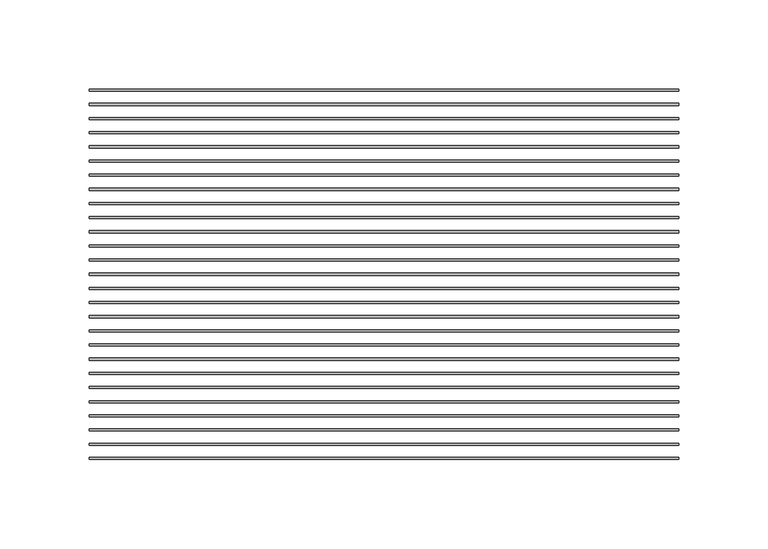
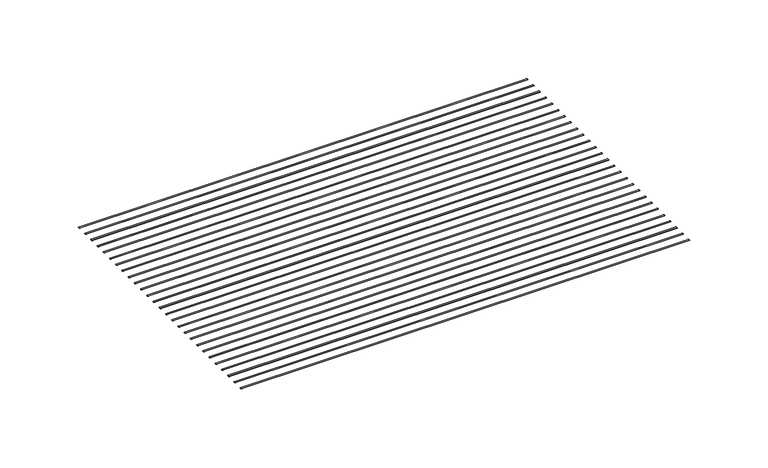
"""IFC4 building model written with IfcOpenShell, lengths in millimetres: proxy geometry, CRAi Generic Model Mesh Piece Face Based : CRAi Generic Model Mesh Piece Face Based."""

from ifc_helpers import new_model, si_unit, point, frame, origin, place, context, project, spatial, ellipse_curve, trimmed, source, transform, mapped, element, save
from ifc_brep_helpers import plane_surface, extruded_surface, advanced_brep


def generic_models_9b5b6e1e(model_context):
    return source(origin(), model_context, "Body", "AdvancedBrep", [
        advanced_brep(
        [(-165.1, 59.3705161, -2.9765625), (-165.1, 58.1798911, -2.9765625), (165.1, 59.3705161, -2.9765625), (165.1, 58.1798911, -2.9765625)],
        [
            (0, 1, ellipse_curve(frame((-165.1, 58.7752036, -2.9765625), z_axis=(-1.0, 0.0, 0.0), x_axis=(0.0, -1.0, 0.0)), 0.5953125, 0.1984375)),
            (1, 0, ellipse_curve(frame((-165.1, 58.7752036, -2.9765625), z_axis=(-1.0, 0.0, 0.0), x_axis=(0.0, -1.0, 0.0)), 0.5953125, 0.1984375)),
            (2, 3, ellipse_curve(frame((165.1, 58.7752036, -2.9765625), z_axis=(1.0, 0.0, 0.0), x_axis=(0.0, -1.0, 0.0)), 0.5953125, 0.1984375)),
            (3, 2, ellipse_curve(frame((165.1, 58.7752036, -2.9765625), z_axis=(1.0, 0.0, 0.0), x_axis=(0.0, -1.0, 0.0)), 0.5953125, 0.1984375)),
            (0, 2),
            (3, 1),
        ],
        [
            plane_surface(frame((-165.1, 58.7752036, -2.9765625), z_axis=(-1.0, 0.0, 0.0), x_axis=(0.0, 0.0, 1.0))),
            plane_surface(frame((165.1, 58.7752036, -2.9765625), z_axis=(1.0, 0.0, 0.0), x_axis=(0.0, 0.0, 1.0))),
            extruded_surface(trimmed(ellipse_curve(frame((165.1, 58.7752036, -2.9765625), z_axis=(-1.0, 0.0, 0.0), x_axis=(0.0, -1.0, 0.0)), 0.5953125, 0.1984375), [point((165.1, 59.3705161, -2.9765625))], [point((165.1, 58.1798911, -2.9765625))], True, "CARTESIAN"), (-330.2, 0.0, 0.0), 330.2),
            extruded_surface(trimmed(ellipse_curve(frame((165.1, 58.7752036, -2.9765625), z_axis=(-1.0, 0.0, 0.0), x_axis=(0.0, -1.0, 0.0)), 0.5953125, 0.1984375), [point((165.1, 58.1798911, -2.9765625))], [point((165.1, 59.3705161, -2.9765625))], True, "CARTESIAN"), (-330.2, 0.0, 0.0), 330.2),
        ],
        [
            (0, [[1, 2]]),
            (1, [[3, 4]]),
            (2, [[-1, 5, -4, 6]]),
            (3, [[-2, -6, -3, -5]]),
        ],
    ),
        advanced_brep(
        [(-165.1, 51.4330161, -2.9765625), (-165.1, 50.2423911, -2.9765625), (165.1, 51.4330161, -2.9765625), (165.1, 50.2423911, -2.9765625)],
        [
            (0, 1, ellipse_curve(frame((-165.1, 50.8377036, -2.9765625), z_axis=(-1.0, 0.0, 0.0), x_axis=(0.0, -1.0, 0.0)), 0.5953125, 0.1984375)),
            (1, 0, ellipse_curve(frame((-165.1, 50.8377036, -2.9765625), z_axis=(-1.0, 0.0, 0.0), x_axis=(0.0, -1.0, 0.0)), 0.5953125, 0.1984375)),
            (2, 3, ellipse_curve(frame((165.1, 50.8377036, -2.9765625), z_axis=(1.0, 0.0, 0.0), x_axis=(0.0, -1.0, 0.0)), 0.5953125, 0.1984375)),
            (3, 2, ellipse_curve(frame((165.1, 50.8377036, -2.9765625), z_axis=(1.0, 0.0, 0.0), x_axis=(0.0, -1.0, 0.0)), 0.5953125, 0.1984375)),
            (0, 2),
            (3, 1),
        ],
        [
            plane_surface(frame((-165.1, 50.8377036, -2.9765625), z_axis=(-1.0, 0.0, 0.0), x_axis=(0.0, 0.0, 1.0))),
            plane_surface(frame((165.1, 50.8377036, -2.9765625), z_axis=(1.0, 0.0, 0.0), x_axis=(0.0, 0.0, 1.0))),
            extruded_surface(trimmed(ellipse_curve(frame((165.1, 50.8377036, -2.9765625), z_axis=(-1.0, 0.0, 0.0), x_axis=(0.0, -1.0, 0.0)), 0.5953125, 0.1984375), [point((165.1, 51.4330161, -2.9765625))], [point((165.1, 50.2423911, -2.9765625))], True, "CARTESIAN"), (-330.2, 0.0, 0.0), 330.2),
            extruded_surface(trimmed(ellipse_curve(frame((165.1, 50.8377036, -2.9765625), z_axis=(-1.0, 0.0, 0.0), x_axis=(0.0, -1.0, 0.0)), 0.5953125, 0.1984375), [point((165.1, 50.2423911, -2.9765625))], [point((165.1, 51.4330161, -2.9765625))], True, "CARTESIAN"), (-330.2, 0.0, 0.0), 330.2),
        ],
        [
            (0, [[1, 2]]),
            (1, [[3, 4]]),
            (2, [[-1, 5, -4, 6]]),
            (3, [[-2, -6, -3, -5]]),
        ],
    ),
        advanced_brep(
        [(-165.1, 43.4955161, -2.9765625), (-165.1, 42.3048911, -2.9765625), (165.1, 43.4955161, -2.9765625), (165.1, 42.3048911, -2.9765625)],
        [
            (0, 1, ellipse_curve(frame((-165.1, 42.9002036, -2.9765625), z_axis=(-1.0, 0.0, 0.0), x_axis=(0.0, -1.0, 0.0)), 0.5953125, 0.1984375)),
            (1, 0, ellipse_curve(frame((-165.1, 42.9002036, -2.9765625), z_axis=(-1.0, 0.0, 0.0), x_axis=(0.0, -1.0, 0.0)), 0.5953125, 0.1984375)),
            (2, 3, ellipse_curve(frame((165.1, 42.9002036, -2.9765625), z_axis=(1.0, 0.0, 0.0), x_axis=(0.0, -1.0, 0.0)), 0.5953125, 0.1984375)),
            (3, 2, ellipse_curve(frame((165.1, 42.9002036, -2.9765625), z_axis=(1.0, 0.0, 0.0), x_axis=(0.0, -1.0, 0.0)), 0.5953125, 0.1984375)),
            (0, 2),
            (3, 1),
        ],
        [
            plane_surface(frame((-165.1, 42.9002036, -2.9765625), z_axis=(-1.0, 0.0, 0.0), x_axis=(0.0, 0.0, 1.0))),
            plane_surface(frame((165.1, 42.9002036, -2.9765625), z_axis=(1.0, 0.0, 0.0), x_axis=(0.0, 0.0, 1.0))),
            extruded_surface(trimmed(ellipse_curve(frame((165.1, 42.9002036, -2.9765625), z_axis=(-1.0, 0.0, 0.0), x_axis=(0.0, -1.0, 0.0)), 0.5953125, 0.1984375), [point((165.1, 43.4955161, -2.9765625))], [point((165.1, 42.3048911, -2.9765625))], True, "CARTESIAN"), (-330.2, 0.0, 0.0), 330.2),
            extruded_surface(trimmed(ellipse_curve(frame((165.1, 42.9002036, -2.9765625), z_axis=(-1.0, 0.0, 0.0), x_axis=(0.0, -1.0, 0.0)), 0.5953125, 0.1984375), [point((165.1, 42.3048911, -2.9765625))], [point((165.1, 43.4955161, -2.9765625))], True, "CARTESIAN"), (-330.2, 0.0, 0.0), 330.2),
        ],
        [
            (0, [[1, 2]]),
            (1, [[3, 4]]),
            (2, [[-1, 5, -4, 6]]),
            (3, [[-2, -6, -3, -5]]),
        ],
    ),
        advanced_brep(
        [(-165.1, 35.5580161, -2.9765625), (-165.1, 34.3673911, -2.9765625), (165.1, 35.5580161, -2.9765625), (165.1, 34.3673911, -2.9765625)],
        [
            (0, 1, ellipse_curve(frame((-165.1, 34.9627036, -2.9765625), z_axis=(-1.0, 0.0, 0.0), x_axis=(0.0, -1.0, 0.0)), 0.5953125, 0.1984375)),
            (1, 0, ellipse_curve(frame((-165.1, 34.9627036, -2.9765625), z_axis=(-1.0, 0.0, 0.0), x_axis=(0.0, -1.0, 0.0)), 0.5953125, 0.1984375)),
            (2, 3, ellipse_curve(frame((165.1, 34.9627036, -2.9765625), z_axis=(1.0, 0.0, 0.0), x_axis=(0.0, -1.0, 0.0)), 0.5953125, 0.1984375)),
            (3, 2, ellipse_curve(frame((165.1, 34.9627036, -2.9765625), z_axis=(1.0, 0.0, 0.0), x_axis=(0.0, -1.0, 0.0)), 0.5953125, 0.1984375)),
            (0, 2),
            (3, 1),
        ],
        [
            plane_surface(frame((-165.1, 34.9627036, -2.9765625), z_axis=(-1.0, 0.0, 0.0), x_axis=(0.0, 0.0, 1.0))),
            plane_surface(frame((165.1, 34.9627036, -2.9765625), z_axis=(1.0, 0.0, 0.0), x_axis=(0.0, 0.0, 1.0))),
            extruded_surface(trimmed(ellipse_curve(frame((165.1, 34.9627036, -2.9765625), z_axis=(-1.0, 0.0, 0.0), x_axis=(0.0, -1.0, 0.0)), 0.5953125, 0.1984375), [point((165.1, 35.5580161, -2.9765625))], [point((165.1, 34.3673911, -2.9765625))], True, "CARTESIAN"), (-330.2, 0.0, 0.0), 330.2),
            extruded_surface(trimmed(ellipse_curve(frame((165.1, 34.9627036, -2.9765625), z_axis=(-1.0, 0.0, 0.0), x_axis=(0.0, -1.0, 0.0)), 0.5953125, 0.1984375), [point((165.1, 34.3673911, -2.9765625))], [point((165.1, 35.5580161, -2.9765625))], True, "CARTESIAN"), (-330.2, 0.0, 0.0), 330.2),
        ],
        [
            (0, [[1, 2]]),
            (1, [[3, 4]]),
            (2, [[-1, 5, -4, 6]]),
            (3, [[-2, -6, -3, -5]]),
        ],
    ),
        advanced_brep(
        [(-165.1, 27.6205161, -2.9765625), (-165.1, 26.4298911, -2.9765625), (165.1, 27.6205161, -2.9765625), (165.1, 26.4298911, -2.9765625)],
        [
            (0, 1, ellipse_curve(frame((-165.1, 27.0252036, -2.9765625), z_axis=(-1.0, 0.0, 0.0), x_axis=(0.0, -1.0, 0.0)), 0.5953125, 0.1984375)),
            (1, 0, ellipse_curve(frame((-165.1, 27.0252036, -2.9765625), z_axis=(-1.0, 0.0, 0.0), x_axis=(0.0, -1.0, 0.0)), 0.5953125, 0.1984375)),
            (2, 3, ellipse_curve(frame((165.1, 27.0252036, -2.9765625), z_axis=(1.0, 0.0, 0.0), x_axis=(0.0, -1.0, 0.0)), 0.5953125, 0.1984375)),
            (3, 2, ellipse_curve(frame((165.1, 27.0252036, -2.9765625), z_axis=(1.0, 0.0, 0.0), x_axis=(0.0, -1.0, 0.0)), 0.5953125, 0.1984375)),
            (0, 2),
            (3, 1),
        ],
        [
            plane_surface(frame((-165.1, 27.0252036, -2.9765625), z_axis=(-1.0, 0.0, 0.0), x_axis=(0.0, 0.0, 1.0))),
            plane_surface(frame((165.1, 27.0252036, -2.9765625), z_axis=(1.0, 0.0, 0.0), x_axis=(0.0, 0.0, 1.0))),
            extruded_surface(trimmed(ellipse_curve(frame((165.1, 27.0252036, -2.9765625), z_axis=(-1.0, 0.0, 0.0), x_axis=(0.0, -1.0, 0.0)), 0.5953125, 0.1984375), [point((165.1, 27.6205161, -2.9765625))], [point((165.1, 26.4298911, -2.9765625))], True, "CARTESIAN"), (-330.2, 0.0, 0.0), 330.2),
            extruded_surface(trimmed(ellipse_curve(frame((165.1, 27.0252036, -2.9765625), z_axis=(-1.0, 0.0, 0.0), x_axis=(0.0, -1.0, 0.0)), 0.5953125, 0.1984375), [point((165.1, 26.4298911, -2.9765625))], [point((165.1, 27.6205161, -2.9765625))], True, "CARTESIAN"), (-330.2, 0.0, 0.0), 330.2),
        ],
        [
            (0, [[1, 2]]),
            (1, [[3, 4]]),
            (2, [[-1, 5, -4, 6]]),
            (3, [[-2, -6, -3, -5]]),
        ],
    ),
        advanced_brep(
        [(-165.1, 19.6830161, -2.9765625), (-165.1, 18.4923911, -2.9765625), (165.1, 19.6830161, -2.9765625), (165.1, 18.4923911, -2.9765625)],
        [
            (0, 1, ellipse_curve(frame((-165.1, 19.0877036, -2.9765625), z_axis=(-1.0, 0.0, 0.0), x_axis=(0.0, -1.0, 0.0)), 0.5953125, 0.1984375)),
            (1, 0, ellipse_curve(frame((-165.1, 19.0877036, -2.9765625), z_axis=(-1.0, 0.0, 0.0), x_axis=(0.0, -1.0, 0.0)), 0.5953125, 0.1984375)),
            (2, 3, ellipse_curve(frame((165.1, 19.0877036, -2.9765625), z_axis=(1.0, 0.0, 0.0), x_axis=(0.0, -1.0, 0.0)), 0.5953125, 0.1984375)),
            (3, 2, ellipse_curve(frame((165.1, 19.0877036, -2.9765625), z_axis=(1.0, 0.0, 0.0), x_axis=(0.0, -1.0, 0.0)), 0.5953125, 0.1984375)),
            (0, 2),
            (3, 1),
        ],
        [
            plane_surface(frame((-165.1, 19.0877036, -2.9765625), z_axis=(-1.0, 0.0, 0.0), x_axis=(0.0, 0.0, 1.0))),
            plane_surface(frame((165.1, 19.0877036, -2.9765625), z_axis=(1.0, 0.0, 0.0), x_axis=(0.0, 0.0, 1.0))),
            extruded_surface(trimmed(ellipse_curve(frame((165.1, 19.0877036, -2.9765625), z_axis=(-1.0, 0.0, 0.0), x_axis=(0.0, -1.0, 0.0)), 0.5953125, 0.1984375), [point((165.1, 19.6830161, -2.9765625))], [point((165.1, 18.4923911, -2.9765625))], True, "CARTESIAN"), (-330.2, 0.0, 0.0), 330.2),
            extruded_surface(trimmed(ellipse_curve(frame((165.1, 19.0877036, -2.9765625), z_axis=(-1.0, 0.0, 0.0), x_axis=(0.0, -1.0, 0.0)), 0.5953125, 0.1984375), [point((165.1, 18.4923911, -2.9765625))], [point((165.1, 19.6830161, -2.9765625))], True, "CARTESIAN"), (-330.2, 0.0, 0.0), 330.2),
        ],
        [
            (0, [[1, 2]]),
            (1, [[3, 4]]),
            (2, [[-1, 5, -4, 6]]),
            (3, [[-2, -6, -3, -5]]),
        ],
    ),
        advanced_brep(
        [(-165.1, 11.7455161, -2.9765625), (-165.1, 10.5548911, -2.9765625), (165.1, 11.7455161, -2.9765625), (165.1, 10.5548911, -2.9765625)],
        [
            (0, 1, ellipse_curve(frame((-165.1, 11.1502036, -2.9765625), z_axis=(-1.0, 0.0, 0.0), x_axis=(0.0, -1.0, 0.0)), 0.5953125, 0.1984375)),
            (1, 0, ellipse_curve(frame((-165.1, 11.1502036, -2.9765625), z_axis=(-1.0, 0.0, 0.0), x_axis=(0.0, -1.0, 0.0)), 0.5953125, 0.1984375)),
            (2, 3, ellipse_curve(frame((165.1, 11.1502036, -2.9765625), z_axis=(1.0, 0.0, 0.0), x_axis=(0.0, -1.0, 0.0)), 0.5953125, 0.1984375)),
            (3, 2, ellipse_curve(frame((165.1, 11.1502036, -2.9765625), z_axis=(1.0, 0.0, 0.0), x_axis=(0.0, -1.0, 0.0)), 0.5953125, 0.1984375)),
            (0, 2),
            (3, 1),
        ],
        [
            plane_surface(frame((-165.1, 11.1502036, -2.9765625), z_axis=(-1.0, 0.0, 0.0), x_axis=(0.0, 0.0, 1.0))),
            plane_surface(frame((165.1, 11.1502036, -2.9765625), z_axis=(1.0, 0.0, 0.0), x_axis=(0.0, 0.0, 1.0))),
            extruded_surface(trimmed(ellipse_curve(frame((165.1, 11.1502036, -2.9765625), z_axis=(-1.0, 0.0, 0.0), x_axis=(0.0, -1.0, 0.0)), 0.5953125, 0.1984375), [point((165.1, 11.7455161, -2.9765625))], [point((165.1, 10.5548911, -2.9765625))], True, "CARTESIAN"), (-330.2, 0.0, 0.0), 330.2),
            extruded_surface(trimmed(ellipse_curve(frame((165.1, 11.1502036, -2.9765625), z_axis=(-1.0, 0.0, 0.0), x_axis=(0.0, -1.0, 0.0)), 0.5953125, 0.1984375), [point((165.1, 10.5548911, -2.9765625))], [point((165.1, 11.7455161, -2.9765625))], True, "CARTESIAN"), (-330.2, 0.0, 0.0), 330.2),
        ],
        [
            (0, [[1, 2]]),
            (1, [[3, 4]]),
            (2, [[-1, 5, -4, 6]]),
            (3, [[-2, -6, -3, -5]]),
        ],
    ),
        advanced_brep(
        [(-165.1, 3.8080161, -2.9765625), (-165.1, 2.6173911, -2.9765625), (165.1, 3.8080161, -2.9765625), (165.1, 2.6173911, -2.9765625)],
        [
            (0, 1, ellipse_curve(frame((-165.1, 3.2127036, -2.9765625), z_axis=(-1.0, 0.0, 0.0), x_axis=(0.0, -1.0, 0.0)), 0.5953125, 0.1984375)),
            (1, 0, ellipse_curve(frame((-165.1, 3.2127036, -2.9765625), z_axis=(-1.0, 0.0, 0.0), x_axis=(0.0, -1.0, 0.0)), 0.5953125, 0.1984375)),
            (2, 3, ellipse_curve(frame((165.1, 3.2127036, -2.9765625), z_axis=(1.0, 0.0, 0.0), x_axis=(0.0, -1.0, 0.0)), 0.5953125, 0.1984375)),
            (3, 2, ellipse_curve(frame((165.1, 3.2127036, -2.9765625), z_axis=(1.0, 0.0, 0.0), x_axis=(0.0, -1.0, 0.0)), 0.5953125, 0.1984375)),
            (0, 2),
            (3, 1),
        ],
        [
            plane_surface(frame((-165.1, 3.2127036, -2.9765625), z_axis=(-1.0, 0.0, 0.0), x_axis=(0.0, 0.0, 1.0))),
            plane_surface(frame((165.1, 3.2127036, -2.9765625), z_axis=(1.0, 0.0, 0.0), x_axis=(0.0, 0.0, 1.0))),
            extruded_surface(trimmed(ellipse_curve(frame((165.1, 3.2127036, -2.9765625), z_axis=(-1.0, 0.0, 0.0), x_axis=(0.0, -1.0, 0.0)), 0.5953125, 0.1984375), [point((165.1, 3.8080161, -2.9765625))], [point((165.1, 2.6173911, -2.9765625))], True, "CARTESIAN"), (-330.2, 0.0, 0.0), 330.2),
            extruded_surface(trimmed(ellipse_curve(frame((165.1, 3.2127036, -2.9765625), z_axis=(-1.0, 0.0, 0.0), x_axis=(0.0, -1.0, 0.0)), 0.5953125, 0.1984375), [point((165.1, 2.6173911, -2.9765625))], [point((165.1, 3.8080161, -2.9765625))], True, "CARTESIAN"), (-330.2, 0.0, 0.0), 330.2),
        ],
        [
            (0, [[1, 2]]),
            (1, [[3, 4]]),
            (2, [[-1, 5, -4, 6]]),
            (3, [[-2, -6, -3, -5]]),
        ],
    ),
        advanced_brep(
        [(-165.1, -4.1294839, -2.9765625), (-165.1, -5.3201089, -2.9765625), (165.1, -4.1294839, -2.9765625), (165.1, -5.3201089, -2.9765625)],
        [
            (0, 1, ellipse_curve(frame((-165.1, -4.7247964, -2.9765625), z_axis=(-1.0, 0.0, 0.0), x_axis=(0.0, -1.0, 0.0)), 0.5953125, 0.1984375)),
            (1, 0, ellipse_curve(frame((-165.1, -4.7247964, -2.9765625), z_axis=(-1.0, 0.0, 0.0), x_axis=(0.0, -1.0, 0.0)), 0.5953125, 0.1984375)),
            (2, 3, ellipse_curve(frame((165.1, -4.7247964, -2.9765625), z_axis=(1.0, 0.0, 0.0), x_axis=(0.0, -1.0, 0.0)), 0.5953125, 0.1984375)),
            (3, 2, ellipse_curve(frame((165.1, -4.7247964, -2.9765625), z_axis=(1.0, 0.0, 0.0), x_axis=(0.0, -1.0, 0.0)), 0.5953125, 0.1984375)),
            (0, 2),
            (3, 1),
        ],
        [
            plane_surface(frame((-165.1, -4.7247964, -2.9765625), z_axis=(-1.0, 0.0, 0.0), x_axis=(0.0, 0.0, 1.0))),
            plane_surface(frame((165.1, -4.7247964, -2.9765625), z_axis=(1.0, 0.0, 0.0), x_axis=(0.0, 0.0, 1.0))),
            extruded_surface(trimmed(ellipse_curve(frame((165.1, -4.7247964, -2.9765625), z_axis=(-1.0, 0.0, 0.0), x_axis=(0.0, -1.0, 0.0)), 0.5953125, 0.1984375), [point((165.1, -4.1294839, -2.9765625))], [point((165.1, -5.3201089, -2.9765625))], True, "CARTESIAN"), (-330.2, 0.0, 0.0), 330.2),
            extruded_surface(trimmed(ellipse_curve(frame((165.1, -4.7247964, -2.9765625), z_axis=(-1.0, 0.0, 0.0), x_axis=(0.0, -1.0, 0.0)), 0.5953125, 0.1984375), [point((165.1, -5.3201089, -2.9765625))], [point((165.1, -4.1294839, -2.9765625))], True, "CARTESIAN"), (-330.2, 0.0, 0.0), 330.2),
        ],
        [
            (0, [[1, 2]]),
            (1, [[3, 4]]),
            (2, [[-1, 5, -4, 6]]),
            (3, [[-2, -6, -3, -5]]),
        ],
    ),
        advanced_brep(
        [(-165.1, -12.0669839, -2.9765625), (-165.1, -13.2576089, -2.9765625), (165.1, -12.0669839, -2.9765625), (165.1, -13.2576089, -2.9765625)],
        [
            (0, 1, ellipse_curve(frame((-165.1, -12.6622964, -2.9765625), z_axis=(-1.0, 0.0, 0.0), x_axis=(0.0, -1.0, 0.0)), 0.5953125, 0.1984375)),
            (1, 0, ellipse_curve(frame((-165.1, -12.6622964, -2.9765625), z_axis=(-1.0, 0.0, 0.0), x_axis=(0.0, -1.0, 0.0)), 0.5953125, 0.1984375)),
            (2, 3, ellipse_curve(frame((165.1, -12.6622964, -2.9765625), z_axis=(1.0, 0.0, 0.0), x_axis=(0.0, -1.0, 0.0)), 0.5953125, 0.1984375)),
            (3, 2, ellipse_curve(frame((165.1, -12.6622964, -2.9765625), z_axis=(1.0, 0.0, 0.0), x_axis=(0.0, -1.0, 0.0)), 0.5953125, 0.1984375)),
            (0, 2),
            (3, 1),
        ],
        [
            plane_surface(frame((-165.1, -12.6622964, -2.9765625), z_axis=(-1.0, 0.0, 0.0), x_axis=(0.0, 0.0, 1.0))),
            plane_surface(frame((165.1, -12.6622964, -2.9765625), z_axis=(1.0, 0.0, 0.0), x_axis=(0.0, 0.0, 1.0))),
            extruded_surface(trimmed(ellipse_curve(frame((165.1, -12.6622964, -2.9765625), z_axis=(-1.0, 0.0, 0.0), x_axis=(0.0, -1.0, 0.0)), 0.5953125, 0.1984375), [point((165.1, -12.0669839, -2.9765625))], [point((165.1, -13.2576089, -2.9765625))], True, "CARTESIAN"), (-330.2, 0.0, 0.0), 330.2),
            extruded_surface(trimmed(ellipse_curve(frame((165.1, -12.6622964, -2.9765625), z_axis=(-1.0, 0.0, 0.0), x_axis=(0.0, -1.0, 0.0)), 0.5953125, 0.1984375), [point((165.1, -13.2576089, -2.9765625))], [point((165.1, -12.0669839, -2.9765625))], True, "CARTESIAN"), (-330.2, 0.0, 0.0), 330.2),
        ],
        [
            (0, [[1, 2]]),
            (1, [[3, 4]]),
            (2, [[-1, 5, -4, 6]]),
            (3, [[-2, -6, -3, -5]]),
        ],
    ),
        advanced_brep(
        [(-165.1, -20.0044839, -2.9765625), (-165.1, -21.1951089, -2.9765625), (165.1, -20.0044839, -2.9765625), (165.1, -21.1951089, -2.9765625)],
        [
            (0, 1, ellipse_curve(frame((-165.1, -20.5997964, -2.9765625), z_axis=(-1.0, 0.0, 0.0), x_axis=(0.0, -1.0, 0.0)), 0.5953125, 0.1984375)),
            (1, 0, ellipse_curve(frame((-165.1, -20.5997964, -2.9765625), z_axis=(-1.0, 0.0, 0.0), x_axis=(0.0, -1.0, 0.0)), 0.5953125, 0.1984375)),
            (2, 3, ellipse_curve(frame((165.1, -20.5997964, -2.9765625), z_axis=(1.0, 0.0, 0.0), x_axis=(0.0, -1.0, 0.0)), 0.5953125, 0.1984375)),
            (3, 2, ellipse_curve(frame((165.1, -20.5997964, -2.9765625), z_axis=(1.0, 0.0, 0.0), x_axis=(0.0, -1.0, 0.0)), 0.5953125, 0.1984375)),
            (0, 2),
            (3, 1),
        ],
        [
            plane_surface(frame((-165.1, -20.5997964, -2.9765625), z_axis=(-1.0, 0.0, 0.0), x_axis=(0.0, 0.0, 1.0))),
            plane_surface(frame((165.1, -20.5997964, -2.9765625), z_axis=(1.0, 0.0, 0.0), x_axis=(0.0, 0.0, 1.0))),
            extruded_surface(trimmed(ellipse_curve(frame((165.1, -20.5997964, -2.9765625), z_axis=(-1.0, 0.0, 0.0), x_axis=(0.0, -1.0, 0.0)), 0.5953125, 0.1984375), [point((165.1, -20.0044839, -2.9765625))], [point((165.1, -21.1951089, -2.9765625))], True, "CARTESIAN"), (-330.2, 0.0, 0.0), 330.2),
            extruded_surface(trimmed(ellipse_curve(frame((165.1, -20.5997964, -2.9765625), z_axis=(-1.0, 0.0, 0.0), x_axis=(0.0, -1.0, 0.0)), 0.5953125, 0.1984375), [point((165.1, -21.1951089, -2.9765625))], [point((165.1, -20.0044839, -2.9765625))], True, "CARTESIAN"), (-330.2, 0.0, 0.0), 330.2),
        ],
        [
            (0, [[1, 2]]),
            (1, [[3, 4]]),
            (2, [[-1, 5, -4, 6]]),
            (3, [[-2, -6, -3, -5]]),
        ],
    ),
        advanced_brep(
        [(-165.1, -27.9419839, -2.9765625), (-165.1, -29.1326089, -2.9765625), (165.1, -27.9419839, -2.9765625), (165.1, -29.1326089, -2.9765625)],
        [
            (0, 1, ellipse_curve(frame((-165.1, -28.5372964, -2.9765625), z_axis=(-1.0, 0.0, 0.0), x_axis=(0.0, -1.0, 0.0)), 0.5953125, 0.1984375)),
            (1, 0, ellipse_curve(frame((-165.1, -28.5372964, -2.9765625), z_axis=(-1.0, 0.0, 0.0), x_axis=(0.0, -1.0, 0.0)), 0.5953125, 0.1984375)),
            (2, 3, ellipse_curve(frame((165.1, -28.5372964, -2.9765625), z_axis=(1.0, 0.0, 0.0), x_axis=(0.0, -1.0, 0.0)), 0.5953125, 0.1984375)),
            (3, 2, ellipse_curve(frame((165.1, -28.5372964, -2.9765625), z_axis=(1.0, 0.0, 0.0), x_axis=(0.0, -1.0, 0.0)), 0.5953125, 0.1984375)),
            (0, 2),
            (3, 1),
        ],
        [
            plane_surface(frame((-165.1, -28.5372964, -2.9765625), z_axis=(-1.0, 0.0, 0.0), x_axis=(0.0, 0.0, 1.0))),
            plane_surface(frame((165.1, -28.5372964, -2.9765625), z_axis=(1.0, 0.0, 0.0), x_axis=(0.0, 0.0, 1.0))),
            extruded_surface(trimmed(ellipse_curve(frame((165.1, -28.5372964, -2.9765625), z_axis=(-1.0, 0.0, 0.0), x_axis=(0.0, -1.0, 0.0)), 0.5953125, 0.1984375), [point((165.1, -27.9419839, -2.9765625))], [point((165.1, -29.1326089, -2.9765625))], True, "CARTESIAN"), (-330.2, 0.0, 0.0), 330.2),
            extruded_surface(trimmed(ellipse_curve(frame((165.1, -28.5372964, -2.9765625), z_axis=(-1.0, 0.0, 0.0), x_axis=(0.0, -1.0, 0.0)), 0.5953125, 0.1984375), [point((165.1, -29.1326089, -2.9765625))], [point((165.1, -27.9419839, -2.9765625))], True, "CARTESIAN"), (-330.2, 0.0, 0.0), 330.2),
        ],
        [
            (0, [[1, 2]]),
            (1, [[3, 4]]),
            (2, [[-1, 5, -4, 6]]),
            (3, [[-2, -6, -3, -5]]),
        ],
    ),
        advanced_brep(
        [(-165.1, -35.8794839, -2.9765625), (-165.1, -37.0701089, -2.9765625), (165.1, -35.8794839, -2.9765625), (165.1, -37.0701089, -2.9765625)],
        [
            (0, 1, ellipse_curve(frame((-165.1, -36.4747964, -2.9765625), z_axis=(-1.0, 0.0, 0.0), x_axis=(0.0, -1.0, 0.0)), 0.5953125, 0.1984375)),
            (1, 0, ellipse_curve(frame((-165.1, -36.4747964, -2.9765625), z_axis=(-1.0, 0.0, 0.0), x_axis=(0.0, -1.0, 0.0)), 0.5953125, 0.1984375)),
            (2, 3, ellipse_curve(frame((165.1, -36.4747964, -2.9765625), z_axis=(1.0, 0.0, 0.0), x_axis=(0.0, -1.0, 0.0)), 0.5953125, 0.1984375)),
            (3, 2, ellipse_curve(frame((165.1, -36.4747964, -2.9765625), z_axis=(1.0, 0.0, 0.0), x_axis=(0.0, -1.0, 0.0)), 0.5953125, 0.1984375)),
            (0, 2),
            (3, 1),
        ],
        [
            plane_surface(frame((-165.1, -36.4747964, -2.9765625), z_axis=(-1.0, 0.0, 0.0), x_axis=(0.0, 0.0, 1.0))),
            plane_surface(frame((165.1, -36.4747964, -2.9765625), z_axis=(1.0, 0.0, 0.0), x_axis=(0.0, 0.0, 1.0))),
            extruded_surface(trimmed(ellipse_curve(frame((165.1, -36.4747964, -2.9765625), z_axis=(-1.0, 0.0, 0.0), x_axis=(0.0, -1.0, 0.0)), 0.5953125, 0.1984375), [point((165.1, -35.8794839, -2.9765625))], [point((165.1, -37.0701089, -2.9765625))], True, "CARTESIAN"), (-330.2, 0.0, 0.0), 330.2),
            extruded_surface(trimmed(ellipse_curve(frame((165.1, -36.4747964, -2.9765625), z_axis=(-1.0, 0.0, 0.0), x_axis=(0.0, -1.0, 0.0)), 0.5953125, 0.1984375), [point((165.1, -37.0701089, -2.9765625))], [point((165.1, -35.8794839, -2.9765625))], True, "CARTESIAN"), (-330.2, 0.0, 0.0), 330.2),
        ],
        [
            (0, [[1, 2]]),
            (1, [[3, 4]]),
            (2, [[-1, 5, -4, 6]]),
            (3, [[-2, -6, -3, -5]]),
        ],
    ),
        advanced_brep(
        [(-165.1, -43.8169839, -2.9765625), (-165.1, -45.0076089, -2.9765625), (165.1, -43.8169839, -2.9765625), (165.1, -45.0076089, -2.9765625)],
        [
            (0, 1, ellipse_curve(frame((-165.1, -44.4122964, -2.9765625), z_axis=(-1.0, 0.0, 0.0), x_axis=(0.0, -1.0, 0.0)), 0.5953125, 0.1984375)),
            (1, 0, ellipse_curve(frame((-165.1, -44.4122964, -2.9765625), z_axis=(-1.0, 0.0, 0.0), x_axis=(0.0, -1.0, 0.0)), 0.5953125, 0.1984375)),
            (2, 3, ellipse_curve(frame((165.1, -44.4122964, -2.9765625), z_axis=(1.0, 0.0, 0.0), x_axis=(0.0, -1.0, 0.0)), 0.5953125, 0.1984375)),
            (3, 2, ellipse_curve(frame((165.1, -44.4122964, -2.9765625), z_axis=(1.0, 0.0, 0.0), x_axis=(0.0, -1.0, 0.0)), 0.5953125, 0.1984375)),
            (0, 2),
            (3, 1),
        ],
        [
            plane_surface(frame((-165.1, -44.4122964, -2.9765625), z_axis=(-1.0, 0.0, 0.0), x_axis=(0.0, 0.0, 1.0))),
            plane_surface(frame((165.1, -44.4122964, -2.9765625), z_axis=(1.0, 0.0, 0.0), x_axis=(0.0, 0.0, 1.0))),
            extruded_surface(trimmed(ellipse_curve(frame((165.1, -44.4122964, -2.9765625), z_axis=(-1.0, 0.0, 0.0), x_axis=(0.0, -1.0, 0.0)), 0.5953125, 0.1984375), [point((165.1, -43.8169839, -2.9765625))], [point((165.1, -45.0076089, -2.9765625))], True, "CARTESIAN"), (-330.2, 0.0, 0.0), 330.2),
            extruded_surface(trimmed(ellipse_curve(frame((165.1, -44.4122964, -2.9765625), z_axis=(-1.0, 0.0, 0.0), x_axis=(0.0, -1.0, 0.0)), 0.5953125, 0.1984375), [point((165.1, -45.0076089, -2.9765625))], [point((165.1, -43.8169839, -2.9765625))], True, "CARTESIAN"), (-330.2, 0.0, 0.0), 330.2),
        ],
        [
            (0, [[1, 2]]),
            (1, [[3, 4]]),
            (2, [[-1, 5, -4, 6]]),
            (3, [[-2, -6, -3, -5]]),
        ],
    ),
        advanced_brep(
        [(-165.1, -51.7544839, -2.9765625), (-165.1, -52.9451089, -2.9765625), (165.1, -51.7544839, -2.9765625), (165.1, -52.9451089, -2.9765625)],
        [
            (0, 1, ellipse_curve(frame((-165.1, -52.3497964, -2.9765625), z_axis=(-1.0, 0.0, 0.0), x_axis=(0.0, -1.0, 0.0)), 0.5953125, 0.1984375)),
            (1, 0, ellipse_curve(frame((-165.1, -52.3497964, -2.9765625), z_axis=(-1.0, 0.0, 0.0), x_axis=(0.0, -1.0, 0.0)), 0.5953125, 0.1984375)),
            (2, 3, ellipse_curve(frame((165.1, -52.3497964, -2.9765625), z_axis=(1.0, 0.0, 0.0), x_axis=(0.0, -1.0, 0.0)), 0.5953125, 0.1984375)),
            (3, 2, ellipse_curve(frame((165.1, -52.3497964, -2.9765625), z_axis=(1.0, 0.0, 0.0), x_axis=(0.0, -1.0, 0.0)), 0.5953125, 0.1984375)),
            (0, 2),
            (3, 1),
        ],
        [
            plane_surface(frame((-165.1, -52.3497964, -2.9765625), z_axis=(-1.0, 0.0, 0.0), x_axis=(0.0, 0.0, 1.0))),
            plane_surface(frame((165.1, -52.3497964, -2.9765625), z_axis=(1.0, 0.0, 0.0), x_axis=(0.0, 0.0, 1.0))),
            extruded_surface(trimmed(ellipse_curve(frame((165.1, -52.3497964, -2.9765625), z_axis=(-1.0, 0.0, 0.0), x_axis=(0.0, -1.0, 0.0)), 0.5953125, 0.1984375), [point((165.1, -51.7544839, -2.9765625))], [point((165.1, -52.9451089, -2.9765625))], True, "CARTESIAN"), (-330.2, 0.0, 0.0), 330.2),
            extruded_surface(trimmed(ellipse_curve(frame((165.1, -52.3497964, -2.9765625), z_axis=(-1.0, 0.0, 0.0), x_axis=(0.0, -1.0, 0.0)), 0.5953125, 0.1984375), [point((165.1, -52.9451089, -2.9765625))], [point((165.1, -51.7544839, -2.9765625))], True, "CARTESIAN"), (-330.2, 0.0, 0.0), 330.2),
        ],
        [
            (0, [[1, 2]]),
            (1, [[3, 4]]),
            (2, [[-1, 5, -4, 6]]),
            (3, [[-2, -6, -3, -5]]),
        ],
    ),
        advanced_brep(
        [(-165.1, -59.6919839, -2.9765625), (-165.1, -60.8826089, -2.9765625), (165.1, -59.6919839, -2.9765625), (165.1, -60.8826089, -2.9765625)],
        [
            (0, 1, ellipse_curve(frame((-165.1, -60.2872964, -2.9765625), z_axis=(-1.0, 0.0, 0.0), x_axis=(0.0, -1.0, 0.0)), 0.5953125, 0.1984375)),
            (1, 0, ellipse_curve(frame((-165.1, -60.2872964, -2.9765625), z_axis=(-1.0, 0.0, 0.0), x_axis=(0.0, -1.0, 0.0)), 0.5953125, 0.1984375)),
            (2, 3, ellipse_curve(frame((165.1, -60.2872964, -2.9765625), z_axis=(1.0, 0.0, 0.0), x_axis=(0.0, -1.0, 0.0)), 0.5953125, 0.1984375)),
            (3, 2, ellipse_curve(frame((165.1, -60.2872964, -2.9765625), z_axis=(1.0, 0.0, 0.0), x_axis=(0.0, -1.0, 0.0)), 0.5953125, 0.1984375)),
            (0, 2),
            (3, 1),
        ],
        [
            plane_surface(frame((-165.1, -60.2872964, -2.9765625), z_axis=(-1.0, 0.0, 0.0), x_axis=(0.0, 0.0, 1.0))),
            plane_surface(frame((165.1, -60.2872964, -2.9765625), z_axis=(1.0, 0.0, 0.0), x_axis=(0.0, 0.0, 1.0))),
            extruded_surface(trimmed(ellipse_curve(frame((165.1, -60.2872964, -2.9765625), z_axis=(-1.0, 0.0, 0.0), x_axis=(0.0, -1.0, 0.0)), 0.5953125, 0.1984375), [point((165.1, -59.6919839, -2.9765625))], [point((165.1, -60.8826089, -2.9765625))], True, "CARTESIAN"), (-330.2, 0.0, 0.0), 330.2),
            extruded_surface(trimmed(ellipse_curve(frame((165.1, -60.2872964, -2.9765625), z_axis=(-1.0, 0.0, 0.0), x_axis=(0.0, -1.0, 0.0)), 0.5953125, 0.1984375), [point((165.1, -60.8826089, -2.9765625))], [point((165.1, -59.6919839, -2.9765625))], True, "CARTESIAN"), (-330.2, 0.0, 0.0), 330.2),
        ],
        [
            (0, [[1, 2]]),
            (1, [[3, 4]]),
            (2, [[-1, 5, -4, 6]]),
            (3, [[-2, -6, -3, -5]]),
        ],
    ),
        advanced_brep(
        [(-165.1, -67.6294839, -2.9765625), (-165.1, -68.8201089, -2.9765625), (165.1, -67.6294839, -2.9765625), (165.1, -68.8201089, -2.9765625)],
        [
            (0, 1, ellipse_curve(frame((-165.1, -68.2247964, -2.9765625), z_axis=(-1.0, 0.0, 0.0), x_axis=(0.0, -1.0, 0.0)), 0.5953125, 0.1984375)),
            (1, 0, ellipse_curve(frame((-165.1, -68.2247964, -2.9765625), z_axis=(-1.0, 0.0, 0.0), x_axis=(0.0, -1.0, 0.0)), 0.5953125, 0.1984375)),
            (2, 3, ellipse_curve(frame((165.1, -68.2247964, -2.9765625), z_axis=(1.0, 0.0, 0.0), x_axis=(0.0, -1.0, 0.0)), 0.5953125, 0.1984375)),
            (3, 2, ellipse_curve(frame((165.1, -68.2247964, -2.9765625), z_axis=(1.0, 0.0, 0.0), x_axis=(0.0, -1.0, 0.0)), 0.5953125, 0.1984375)),
            (0, 2),
            (3, 1),
        ],
        [
            plane_surface(frame((-165.1, -68.2247964, -2.9765625), z_axis=(-1.0, 0.0, 0.0), x_axis=(0.0, 0.0, 1.0))),
            plane_surface(frame((165.1, -68.2247964, -2.9765625), z_axis=(1.0, 0.0, 0.0), x_axis=(0.0, 0.0, 1.0))),
            extruded_surface(trimmed(ellipse_curve(frame((165.1, -68.2247964, -2.9765625), z_axis=(-1.0, 0.0, 0.0), x_axis=(0.0, -1.0, 0.0)), 0.5953125, 0.1984375), [point((165.1, -67.6294839, -2.9765625))], [point((165.1, -68.8201089, -2.9765625))], True, "CARTESIAN"), (-330.2, 0.0, 0.0), 330.2),
            extruded_surface(trimmed(ellipse_curve(frame((165.1, -68.2247964, -2.9765625), z_axis=(-1.0, 0.0, 0.0), x_axis=(0.0, -1.0, 0.0)), 0.5953125, 0.1984375), [point((165.1, -68.8201089, -2.9765625))], [point((165.1, -67.6294839, -2.9765625))], True, "CARTESIAN"), (-330.2, 0.0, 0.0), 330.2),
        ],
        [
            (0, [[1, 2]]),
            (1, [[3, 4]]),
            (2, [[-1, 5, -4, 6]]),
            (3, [[-2, -6, -3, -5]]),
        ],
    ),
        advanced_brep(
        [(-165.1, -75.5669839, -2.9765625), (-165.1, -76.7576089, -2.9765625), (165.1, -75.5669839, -2.9765625), (165.1, -76.7576089, -2.9765625)],
        [
            (0, 1, ellipse_curve(frame((-165.1, -76.1622964, -2.9765625), z_axis=(-1.0, 0.0, 0.0), x_axis=(0.0, -1.0, 0.0)), 0.5953125, 0.1984375)),
            (1, 0, ellipse_curve(frame((-165.1, -76.1622964, -2.9765625), z_axis=(-1.0, 0.0, 0.0), x_axis=(0.0, -1.0, 0.0)), 0.5953125, 0.1984375)),
            (2, 3, ellipse_curve(frame((165.1, -76.1622964, -2.9765625), z_axis=(1.0, 0.0, 0.0), x_axis=(0.0, -1.0, 0.0)), 0.5953125, 0.1984375)),
            (3, 2, ellipse_curve(frame((165.1, -76.1622964, -2.9765625), z_axis=(1.0, 0.0, 0.0), x_axis=(0.0, -1.0, 0.0)), 0.5953125, 0.1984375)),
            (0, 2),
            (3, 1),
        ],
        [
            plane_surface(frame((-165.1, -76.1622964, -2.9765625), z_axis=(-1.0, 0.0, 0.0), x_axis=(0.0, 0.0, 1.0))),
            plane_surface(frame((165.1, -76.1622964, -2.9765625), z_axis=(1.0, 0.0, 0.0), x_axis=(0.0, 0.0, 1.0))),
            extruded_surface(trimmed(ellipse_curve(frame((165.1, -76.1622964, -2.9765625), z_axis=(-1.0, 0.0, 0.0), x_axis=(0.0, -1.0, 0.0)), 0.5953125, 0.1984375), [point((165.1, -75.5669839, -2.9765625))], [point((165.1, -76.7576089, -2.9765625))], True, "CARTESIAN"), (-330.2, 0.0, 0.0), 330.2),
            extruded_surface(trimmed(ellipse_curve(frame((165.1, -76.1622964, -2.9765625), z_axis=(-1.0, 0.0, 0.0), x_axis=(0.0, -1.0, 0.0)), 0.5953125, 0.1984375), [point((165.1, -76.7576089, -2.9765625))], [point((165.1, -75.5669839, -2.9765625))], True, "CARTESIAN"), (-330.2, 0.0, 0.0), 330.2),
        ],
        [
            (0, [[1, 2]]),
            (1, [[3, 4]]),
            (2, [[-1, 5, -4, 6]]),
            (3, [[-2, -6, -3, -5]]),
        ],
    ),
        advanced_brep(
        [(-165.1, -83.5044839, -2.9765625), (-165.1, -84.6951089, -2.9765625), (165.1, -83.5044839, -2.9765625), (165.1, -84.6951089, -2.9765625)],
        [
            (0, 1, ellipse_curve(frame((-165.1, -84.0997964, -2.9765625), z_axis=(-1.0, 0.0, 0.0), x_axis=(0.0, -1.0, 0.0)), 0.5953125, 0.1984375)),
            (1, 0, ellipse_curve(frame((-165.1, -84.0997964, -2.9765625), z_axis=(-1.0, 0.0, 0.0), x_axis=(0.0, -1.0, 0.0)), 0.5953125, 0.1984375)),
            (2, 3, ellipse_curve(frame((165.1, -84.0997964, -2.9765625), z_axis=(1.0, 0.0, 0.0), x_axis=(0.0, -1.0, 0.0)), 0.5953125, 0.1984375)),
            (3, 2, ellipse_curve(frame((165.1, -84.0997964, -2.9765625), z_axis=(1.0, 0.0, 0.0), x_axis=(0.0, -1.0, 0.0)), 0.5953125, 0.1984375)),
            (0, 2),
            (3, 1),
        ],
        [
            plane_surface(frame((-165.1, -84.0997964, -2.9765625), z_axis=(-1.0, 0.0, 0.0), x_axis=(0.0, 0.0, 1.0))),
            plane_surface(frame((165.1, -84.0997964, -2.9765625), z_axis=(1.0, 0.0, 0.0), x_axis=(0.0, 0.0, 1.0))),
            extruded_surface(trimmed(ellipse_curve(frame((165.1, -84.0997964, -2.9765625), z_axis=(-1.0, 0.0, 0.0), x_axis=(0.0, -1.0, 0.0)), 0.5953125, 0.1984375), [point((165.1, -83.5044839, -2.9765625))], [point((165.1, -84.6951089, -2.9765625))], True, "CARTESIAN"), (-330.2, 0.0, 0.0), 330.2),
            extruded_surface(trimmed(ellipse_curve(frame((165.1, -84.0997964, -2.9765625), z_axis=(-1.0, 0.0, 0.0), x_axis=(0.0, -1.0, 0.0)), 0.5953125, 0.1984375), [point((165.1, -84.6951089, -2.9765625))], [point((165.1, -83.5044839, -2.9765625))], True, "CARTESIAN"), (-330.2, 0.0, 0.0), 330.2),
        ],
        [
            (0, [[1, 2]]),
            (1, [[3, 4]]),
            (2, [[-1, 5, -4, 6]]),
            (3, [[-2, -6, -3, -5]]),
        ],
    ),
        advanced_brep(
        [(-165.1, -91.4419839, -2.9765625), (-165.1, -92.6326089, -2.9765625), (165.1, -91.4419839, -2.9765625), (165.1, -92.6326089, -2.9765625)],
        [
            (0, 1, ellipse_curve(frame((-165.1, -92.0372964, -2.9765625), z_axis=(-1.0, 0.0, 0.0), x_axis=(0.0, -1.0, 0.0)), 0.5953125, 0.1984375)),
            (1, 0, ellipse_curve(frame((-165.1, -92.0372964, -2.9765625), z_axis=(-1.0, 0.0, 0.0), x_axis=(0.0, -1.0, 0.0)), 0.5953125, 0.1984375)),
            (2, 3, ellipse_curve(frame((165.1, -92.0372964, -2.9765625), z_axis=(1.0, 0.0, 0.0), x_axis=(0.0, -1.0, 0.0)), 0.5953125, 0.1984375)),
            (3, 2, ellipse_curve(frame((165.1, -92.0372964, -2.9765625), z_axis=(1.0, 0.0, 0.0), x_axis=(0.0, -1.0, 0.0)), 0.5953125, 0.1984375)),
            (0, 2),
            (3, 1),
        ],
        [
            plane_surface(frame((-165.1, -92.0372964, -2.9765625), z_axis=(-1.0, 0.0, 0.0), x_axis=(0.0, 0.0, 1.0))),
            plane_surface(frame((165.1, -92.0372964, -2.9765625), z_axis=(1.0, 0.0, 0.0), x_axis=(0.0, 0.0, 1.0))),
            extruded_surface(trimmed(ellipse_curve(frame((165.1, -92.0372964, -2.9765625), z_axis=(-1.0, 0.0, 0.0), x_axis=(0.0, -1.0, 0.0)), 0.5953125, 0.1984375), [point((165.1, -91.4419839, -2.9765625))], [point((165.1, -92.6326089, -2.9765625))], True, "CARTESIAN"), (-330.2, 0.0, 0.0), 330.2),
            extruded_surface(trimmed(ellipse_curve(frame((165.1, -92.0372964, -2.9765625), z_axis=(-1.0, 0.0, 0.0), x_axis=(0.0, -1.0, 0.0)), 0.5953125, 0.1984375), [point((165.1, -92.6326089, -2.9765625))], [point((165.1, -91.4419839, -2.9765625))], True, "CARTESIAN"), (-330.2, 0.0, 0.0), 330.2),
        ],
        [
            (0, [[1, 2]]),
            (1, [[3, 4]]),
            (2, [[-1, 5, -4, 6]]),
            (3, [[-2, -6, -3, -5]]),
        ],
    ),
        advanced_brep(
        [(-165.1, -99.3794839, -2.9765625), (-165.1, -100.5701089, -2.9765625), (165.1, -99.3794839, -2.9765625), (165.1, -100.5701089, -2.9765625)],
        [
            (0, 1, ellipse_curve(frame((-165.1, -99.9747964, -2.9765625), z_axis=(-1.0, 0.0, 0.0), x_axis=(0.0, -1.0, 0.0)), 0.5953125, 0.1984375)),
            (1, 0, ellipse_curve(frame((-165.1, -99.9747964, -2.9765625), z_axis=(-1.0, 0.0, 0.0), x_axis=(0.0, -1.0, 0.0)), 0.5953125, 0.1984375)),
            (2, 3, ellipse_curve(frame((165.1, -99.9747964, -2.9765625), z_axis=(1.0, 0.0, 0.0), x_axis=(0.0, -1.0, 0.0)), 0.5953125, 0.1984375)),
            (3, 2, ellipse_curve(frame((165.1, -99.9747964, -2.9765625), z_axis=(1.0, 0.0, 0.0), x_axis=(0.0, -1.0, 0.0)), 0.5953125, 0.1984375)),
            (0, 2),
            (3, 1),
        ],
        [
            plane_surface(frame((-165.1, -99.9747964, -2.9765625), z_axis=(-1.0, 0.0, 0.0), x_axis=(0.0, 0.0, 1.0))),
            plane_surface(frame((165.1, -99.9747964, -2.9765625), z_axis=(1.0, 0.0, 0.0), x_axis=(0.0, 0.0, 1.0))),
            extruded_surface(trimmed(ellipse_curve(frame((165.1, -99.9747964, -2.9765625), z_axis=(-1.0, 0.0, 0.0), x_axis=(0.0, -1.0, 0.0)), 0.5953125, 0.1984375), [point((165.1, -99.3794839, -2.9765625))], [point((165.1, -100.5701089, -2.9765625))], True, "CARTESIAN"), (-330.2, 0.0, 0.0), 330.2),
            extruded_surface(trimmed(ellipse_curve(frame((165.1, -99.9747964, -2.9765625), z_axis=(-1.0, 0.0, 0.0), x_axis=(0.0, -1.0, 0.0)), 0.5953125, 0.1984375), [point((165.1, -100.5701089, -2.9765625))], [point((165.1, -99.3794839, -2.9765625))], True, "CARTESIAN"), (-330.2, 0.0, 0.0), 330.2),
        ],
        [
            (0, [[1, 2]]),
            (1, [[3, 4]]),
            (2, [[-1, 5, -4, 6]]),
            (3, [[-2, -6, -3, -5]]),
        ],
    ),
        advanced_brep(
        [(-165.1, -107.3169839, -2.9765625), (-165.1, -108.5076089, -2.9765625), (165.1, -107.3169839, -2.9765625), (165.1, -108.5076089, -2.9765625)],
        [
            (0, 1, ellipse_curve(frame((-165.1, -107.9122964, -2.9765625), z_axis=(-1.0, 0.0, 0.0), x_axis=(0.0, -1.0, 0.0)), 0.5953125, 0.1984375)),
            (1, 0, ellipse_curve(frame((-165.1, -107.9122964, -2.9765625), z_axis=(-1.0, 0.0, 0.0), x_axis=(0.0, -1.0, 0.0)), 0.5953125, 0.1984375)),
            (2, 3, ellipse_curve(frame((165.1, -107.9122964, -2.9765625), z_axis=(1.0, 0.0, 0.0), x_axis=(0.0, -1.0, 0.0)), 0.5953125, 0.1984375)),
            (3, 2, ellipse_curve(frame((165.1, -107.9122964, -2.9765625), z_axis=(1.0, 0.0, 0.0), x_axis=(0.0, -1.0, 0.0)), 0.5953125, 0.1984375)),
            (0, 2),
            (3, 1),
        ],
        [
            plane_surface(frame((-165.1, -107.9122964, -2.9765625), z_axis=(-1.0, 0.0, 0.0), x_axis=(0.0, 0.0, 1.0))),
            plane_surface(frame((165.1, -107.9122964, -2.9765625), z_axis=(1.0, 0.0, 0.0), x_axis=(0.0, 0.0, 1.0))),
            extruded_surface(trimmed(ellipse_curve(frame((165.1, -107.9122964, -2.9765625), z_axis=(-1.0, 0.0, 0.0), x_axis=(0.0, -1.0, 0.0)), 0.5953125, 0.1984375), [point((165.1, -107.3169839, -2.9765625))], [point((165.1, -108.5076089, -2.9765625))], True, "CARTESIAN"), (-330.2, 0.0, 0.0), 330.2),
            extruded_surface(trimmed(ellipse_curve(frame((165.1, -107.9122964, -2.9765625), z_axis=(-1.0, 0.0, 0.0), x_axis=(0.0, -1.0, 0.0)), 0.5953125, 0.1984375), [point((165.1, -108.5076089, -2.9765625))], [point((165.1, -107.3169839, -2.9765625))], True, "CARTESIAN"), (-330.2, 0.0, 0.0), 330.2),
        ],
        [
            (0, [[1, 2]]),
            (1, [[3, 4]]),
            (2, [[-1, 5, -4, 6]]),
            (3, [[-2, -6, -3, -5]]),
        ],
    ),
        advanced_brep(
        [(-165.1, -115.2544839, -2.9765625), (-165.1, -116.4451089, -2.9765625), (165.1, -115.2544839, -2.9765625), (165.1, -116.4451089, -2.9765625)],
        [
            (0, 1, ellipse_curve(frame((-165.1, -115.8497964, -2.9765625), z_axis=(-1.0, 0.0, 0.0), x_axis=(0.0, -1.0, 0.0)), 0.5953125, 0.1984375)),
            (1, 0, ellipse_curve(frame((-165.1, -115.8497964, -2.9765625), z_axis=(-1.0, 0.0, 0.0), x_axis=(0.0, -1.0, 0.0)), 0.5953125, 0.1984375)),
            (2, 3, ellipse_curve(frame((165.1, -115.8497964, -2.9765625), z_axis=(1.0, 0.0, 0.0), x_axis=(0.0, -1.0, 0.0)), 0.5953125, 0.1984375)),
            (3, 2, ellipse_curve(frame((165.1, -115.8497964, -2.9765625), z_axis=(1.0, 0.0, 0.0), x_axis=(0.0, -1.0, 0.0)), 0.5953125, 0.1984375)),
            (0, 2),
            (3, 1),
        ],
        [
            plane_surface(frame((-165.1, -115.8497964, -2.9765625), z_axis=(-1.0, 0.0, 0.0), x_axis=(0.0, 0.0, 1.0))),
            plane_surface(frame((165.1, -115.8497964, -2.9765625), z_axis=(1.0, 0.0, 0.0), x_axis=(0.0, 0.0, 1.0))),
            extruded_surface(trimmed(ellipse_curve(frame((165.1, -115.8497964, -2.9765625), z_axis=(-1.0, 0.0, 0.0), x_axis=(0.0, -1.0, 0.0)), 0.5953125, 0.1984375), [point((165.1, -115.2544839, -2.9765625))], [point((165.1, -116.4451089, -2.9765625))], True, "CARTESIAN"), (-330.2, 0.0, 0.0), 330.2),
            extruded_surface(trimmed(ellipse_curve(frame((165.1, -115.8497964, -2.9765625), z_axis=(-1.0, 0.0, 0.0), x_axis=(0.0, -1.0, 0.0)), 0.5953125, 0.1984375), [point((165.1, -116.4451089, -2.9765625))], [point((165.1, -115.2544839, -2.9765625))], True, "CARTESIAN"), (-330.2, 0.0, 0.0), 330.2),
        ],
        [
            (0, [[1, 2]]),
            (1, [[3, 4]]),
            (2, [[-1, 5, -4, 6]]),
            (3, [[-2, -6, -3, -5]]),
        ],
    ),
        advanced_brep(
        [(-165.1, -123.1919839, -2.9765625), (-165.1, -124.3826089, -2.9765625), (165.1, -123.1919839, -2.9765625), (165.1, -124.3826089, -2.9765625)],
        [
            (0, 1, ellipse_curve(frame((-165.1, -123.7872964, -2.9765625), z_axis=(-1.0, 0.0, 0.0), x_axis=(0.0, -1.0, 0.0)), 0.5953125, 0.1984375)),
            (1, 0, ellipse_curve(frame((-165.1, -123.7872964, -2.9765625), z_axis=(-1.0, 0.0, 0.0), x_axis=(0.0, -1.0, 0.0)), 0.5953125, 0.1984375)),
            (2, 3, ellipse_curve(frame((165.1, -123.7872964, -2.9765625), z_axis=(1.0, 0.0, 0.0), x_axis=(0.0, -1.0, 0.0)), 0.5953125, 0.1984375)),
            (3, 2, ellipse_curve(frame((165.1, -123.7872964, -2.9765625), z_axis=(1.0, 0.0, 0.0), x_axis=(0.0, -1.0, 0.0)), 0.5953125, 0.1984375)),
            (0, 2),
            (3, 1),
        ],
        [
            plane_surface(frame((-165.1, -123.7872964, -2.9765625), z_axis=(-1.0, 0.0, 0.0), x_axis=(0.0, 0.0, 1.0))),
            plane_surface(frame((165.1, -123.7872964, -2.9765625), z_axis=(1.0, 0.0, 0.0), x_axis=(0.0, 0.0, 1.0))),
            extruded_surface(trimmed(ellipse_curve(frame((165.1, -123.7872964, -2.9765625), z_axis=(-1.0, 0.0, 0.0), x_axis=(0.0, -1.0, 0.0)), 0.5953125, 0.1984375), [point((165.1, -123.1919839, -2.9765625))], [point((165.1, -124.3826089, -2.9765625))], True, "CARTESIAN"), (-330.2, 0.0, 0.0), 330.2),
            extruded_surface(trimmed(ellipse_curve(frame((165.1, -123.7872964, -2.9765625), z_axis=(-1.0, 0.0, 0.0), x_axis=(0.0, -1.0, 0.0)), 0.5953125, 0.1984375), [point((165.1, -124.3826089, -2.9765625))], [point((165.1, -123.1919839, -2.9765625))], True, "CARTESIAN"), (-330.2, 0.0, 0.0), 330.2),
        ],
        [
            (0, [[1, 2]]),
            (1, [[3, 4]]),
            (2, [[-1, 5, -4, 6]]),
            (3, [[-2, -6, -3, -5]]),
        ],
    ),
        advanced_brep(
        [(-165.1, -131.1294839, -2.9765625), (-165.1, -132.3201089, -2.9765625), (165.1, -131.1294839, -2.9765625), (165.1, -132.3201089, -2.9765625)],
        [
            (0, 1, ellipse_curve(frame((-165.1, -131.7247964, -2.9765625), z_axis=(-1.0, 0.0, 0.0), x_axis=(0.0, -1.0, 0.0)), 0.5953125, 0.1984375)),
            (1, 0, ellipse_curve(frame((-165.1, -131.7247964, -2.9765625), z_axis=(-1.0, 0.0, 0.0), x_axis=(0.0, -1.0, 0.0)), 0.5953125, 0.1984375)),
            (2, 3, ellipse_curve(frame((165.1, -131.7247964, -2.9765625), z_axis=(1.0, 0.0, 0.0), x_axis=(0.0, -1.0, 0.0)), 0.5953125, 0.1984375)),
            (3, 2, ellipse_curve(frame((165.1, -131.7247964, -2.9765625), z_axis=(1.0, 0.0, 0.0), x_axis=(0.0, -1.0, 0.0)), 0.5953125, 0.1984375)),
            (0, 2),
            (3, 1),
        ],
        [
            plane_surface(frame((-165.1, -131.7247964, -2.9765625), z_axis=(-1.0, 0.0, 0.0), x_axis=(0.0, 0.0, 1.0))),
            plane_surface(frame((165.1, -131.7247964, -2.9765625), z_axis=(1.0, 0.0, 0.0), x_axis=(0.0, 0.0, 1.0))),
            extruded_surface(trimmed(ellipse_curve(frame((165.1, -131.7247964, -2.9765625), z_axis=(-1.0, 0.0, 0.0), x_axis=(0.0, -1.0, 0.0)), 0.5953125, 0.1984375), [point((165.1, -131.1294839, -2.9765625))], [point((165.1, -132.3201089, -2.9765625))], True, "CARTESIAN"), (-330.2, 0.0, 0.0), 330.2),
            extruded_surface(trimmed(ellipse_curve(frame((165.1, -131.7247964, -2.9765625), z_axis=(-1.0, 0.0, 0.0), x_axis=(0.0, -1.0, 0.0)), 0.5953125, 0.1984375), [point((165.1, -132.3201089, -2.9765625))], [point((165.1, -131.1294839, -2.9765625))], True, "CARTESIAN"), (-330.2, 0.0, 0.0), 330.2),
        ],
        [
            (0, [[1, 2]]),
            (1, [[3, 4]]),
            (2, [[-1, 5, -4, 6]]),
            (3, [[-2, -6, -3, -5]]),
        ],
    ),
        advanced_brep(
        [(-165.1, -139.0669839, -2.9765625), (-165.1, -140.2576089, -2.9765625), (165.1, -139.0669839, -2.9765625), (165.1, -140.2576089, -2.9765625)],
        [
            (0, 1, ellipse_curve(frame((-165.1, -139.6622964, -2.9765625), z_axis=(-1.0, 0.0, 0.0), x_axis=(0.0, -1.0, 0.0)), 0.5953125, 0.1984375)),
            (1, 0, ellipse_curve(frame((-165.1, -139.6622964, -2.9765625), z_axis=(-1.0, 0.0, 0.0), x_axis=(0.0, -1.0, 0.0)), 0.5953125, 0.1984375)),
            (2, 3, ellipse_curve(frame((165.1, -139.6622964, -2.9765625), z_axis=(1.0, 0.0, 0.0), x_axis=(0.0, -1.0, 0.0)), 0.5953125, 0.1984375)),
            (3, 2, ellipse_curve(frame((165.1, -139.6622964, -2.9765625), z_axis=(1.0, 0.0, 0.0), x_axis=(0.0, -1.0, 0.0)), 0.5953125, 0.1984375)),
            (0, 2),
            (3, 1),
        ],
        [
            plane_surface(frame((-165.1, -139.6622964, -2.9765625), z_axis=(-1.0, 0.0, 0.0), x_axis=(0.0, 0.0, 1.0))),
            plane_surface(frame((165.1, -139.6622964, -2.9765625), z_axis=(1.0, 0.0, 0.0), x_axis=(0.0, 0.0, 1.0))),
            extruded_surface(trimmed(ellipse_curve(frame((165.1, -139.6622964, -2.9765625), z_axis=(-1.0, 0.0, 0.0), x_axis=(0.0, -1.0, 0.0)), 0.5953125, 0.1984375), [point((165.1, -139.0669839, -2.9765625))], [point((165.1, -140.2576089, -2.9765625))], True, "CARTESIAN"), (-330.2, 0.0, 0.0), 330.2),
            extruded_surface(trimmed(ellipse_curve(frame((165.1, -139.6622964, -2.9765625), z_axis=(-1.0, 0.0, 0.0), x_axis=(0.0, -1.0, 0.0)), 0.5953125, 0.1984375), [point((165.1, -140.2576089, -2.9765625))], [point((165.1, -139.0669839, -2.9765625))], True, "CARTESIAN"), (-330.2, 0.0, 0.0), 330.2),
        ],
        [
            (0, [[1, 2]]),
            (1, [[3, 4]]),
            (2, [[-1, 5, -4, 6]]),
            (3, [[-2, -6, -3, -5]]),
        ],
    ),
        advanced_brep(
        [(-165.1, -147.0044839, -2.9765625), (-165.1, -148.1951089, -2.9765625), (165.1, -147.0044839, -2.9765625), (165.1, -148.1951089, -2.9765625)],
        [
            (0, 1, ellipse_curve(frame((-165.1, -147.5997964, -2.9765625), z_axis=(-1.0, 0.0, 0.0), x_axis=(0.0, -1.0, 0.0)), 0.5953125, 0.1984375)),
            (1, 0, ellipse_curve(frame((-165.1, -147.5997964, -2.9765625), z_axis=(-1.0, 0.0, 0.0), x_axis=(0.0, -1.0, 0.0)), 0.5953125, 0.1984375)),
            (2, 3, ellipse_curve(frame((165.1, -147.5997964, -2.9765625), z_axis=(1.0, 0.0, 0.0), x_axis=(0.0, -1.0, 0.0)), 0.5953125, 0.1984375)),
            (3, 2, ellipse_curve(frame((165.1, -147.5997964, -2.9765625), z_axis=(1.0, 0.0, 0.0), x_axis=(0.0, -1.0, 0.0)), 0.5953125, 0.1984375)),
            (0, 2),
            (3, 1),
        ],
        [
            plane_surface(frame((-165.1, -147.5997964, -2.9765625), z_axis=(-1.0, 0.0, 0.0), x_axis=(0.0, 0.0, 1.0))),
            plane_surface(frame((165.1, -147.5997964, -2.9765625), z_axis=(1.0, 0.0, 0.0), x_axis=(0.0, 0.0, 1.0))),
            extruded_surface(trimmed(ellipse_curve(frame((165.1, -147.5997964, -2.9765625), z_axis=(-1.0, 0.0, 0.0), x_axis=(0.0, -1.0, 0.0)), 0.5953125, 0.1984375), [point((165.1, -147.0044839, -2.9765625))], [point((165.1, -148.1951089, -2.9765625))], True, "CARTESIAN"), (-330.2, 0.0, 0.0), 330.2),
            extruded_surface(trimmed(ellipse_curve(frame((165.1, -147.5997964, -2.9765625), z_axis=(-1.0, 0.0, 0.0), x_axis=(0.0, -1.0, 0.0)), 0.5953125, 0.1984375), [point((165.1, -148.1951089, -2.9765625))], [point((165.1, -147.0044839, -2.9765625))], True, "CARTESIAN"), (-330.2, 0.0, 0.0), 330.2),
        ],
        [
            (0, [[1, 2]]),
            (1, [[3, 4]]),
            (2, [[-1, 5, -4, 6]]),
            (3, [[-2, -6, -3, -5]]),
        ],
    ),
    ])


if __name__ == "__main__":
    model = new_model("IFC4")
    model_context = context("Model", 3, world=origin())
    ifc_project = project(units=[si_unit("LENGTHUNIT", "METRE", prefix="MILLI")], contexts=[model_context])
    site = spatial("IfcSite", under=ifc_project)
    building = spatial("IfcBuilding", under=site)
    placement = place(None, origin())
    generic_models_shape = generic_models_9b5b6e1e(model_context)
    element("IfcBuildingElementProxy", 1, Name="CRAi Generic Model Mesh Piece Face Based : CRAi Generic Model Mesh Piece Face Based", ObjectType="CRAi Generic Model Mesh Piece Face Based : CRAi Generic Model Mesh Piece Face Based", at=placement, inside=building, context=model_context, shape_type="MappedRepresentation", body=[
        mapped(generic_models_shape, transform((0.0, 0.0, 0.0), x_axis=(1.0, 0.0, 0.0), y_axis=(0.0, 1.0, 0.0), z_axis=(0.0, 0.0, 1.0))),
    ])
    save(model, "model.ifc")
